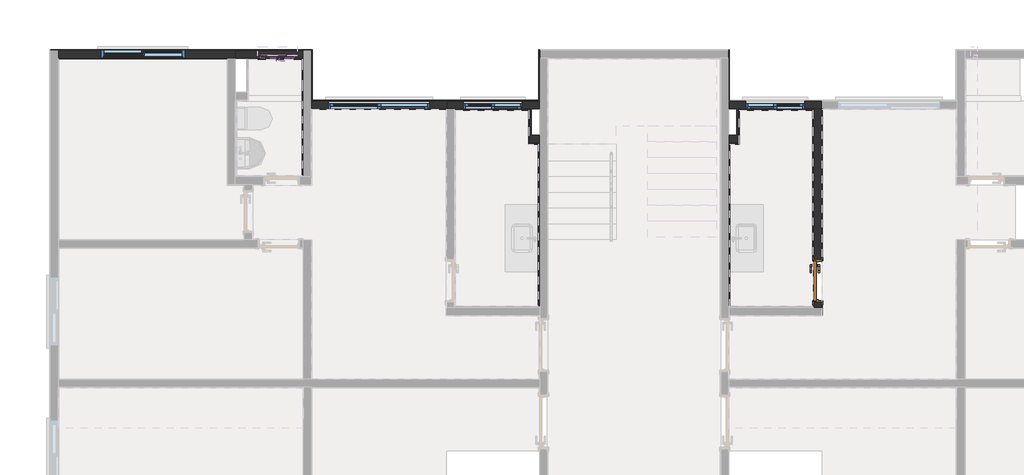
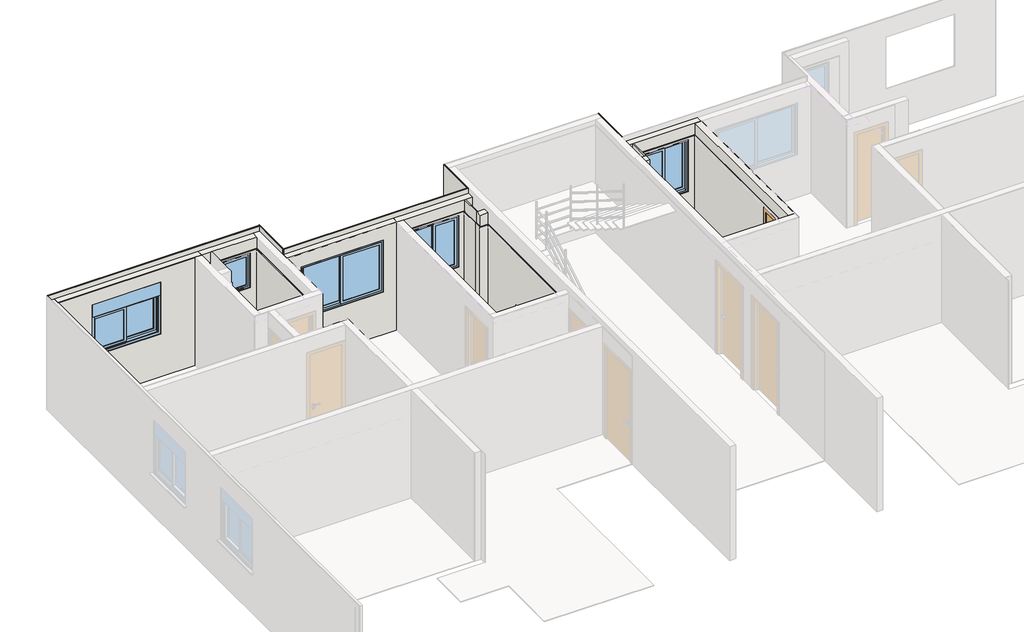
# One storey, part 5 of 9: 31 walls, 5 windows, 1 door.
"""IFC4 building model written with IfcOpenShell, lengths in millimetres."""

from ifc_helpers import new_model, si_unit, frame, origin, place, context, project, spatial, polyline, outline, extrude, faceted_brep, transform, mapped, element, save
from components import porta_de_madeira_interna_70_x_210_porta_de_madeira_interna_f307109d, window_105x120_428ac20c, window_105x120_f2d7c1f1, window_150x120_d34a449e, window_180x120_e659ab7e, window_60x80_6d4336cf

model = new_model("IFC4")

# Units and contexts
model_context = context("Model", 3, world=origin())
ifc_project = project(units=[si_unit("LENGTHUNIT", "METRE", prefix="MILLI")], contexts=[model_context])

# Site, building, storey
site = spatial("IfcSite", under=ifc_project)
building = spatial("IfcBuilding", under=site)
storey = spatial("IfcBuildingStorey", under=building, Name="2º Pavimento", Elevation=2630.0)

# Door
placement = place(None, origin())
porta_de_madeira_interna_70_x_210_porta_de_madeira_interna_shape = porta_de_madeira_interna_70_x_210_porta_de_madeira_interna_f307109d(model_context)
element("IfcDoor", 1, ObjectType="Porta de Madeira Interna 70 x 210 : Porta de Madeira Interna 70 x 210", at=placement, inside=storey, context=model_context, shape_type="MappedRepresentation", body=[
    mapped(porta_de_madeira_interna_70_x_210_porta_de_madeira_interna_shape, transform((13673.8210213, 8221.3603139, 2630.0), x_axis=(0.0, -1.0, 0.0), y_axis=(1.0, 0.0, 0.0), z_axis=(0.0, 0.0, 1.0))),
])

# Walls
element("IfcWall", 2, ObjectType="Alvenaria Estrutural", at=placement, inside=storey, context=model_context, shape_type="Brep", body=[
    faceted_brep([(169.9991825, 12180.0252435, 2630.0), (175.9991825, 12180.0252435, 2630.0), (3179.9977061, 12180.0252435, 2630.0), (3319.9977061, 12180.0252435, 2630.0), (3319.9977061, 12180.0252435, 5140.0), (3179.9977061, 12180.0252435, 5140.0), (175.9991825, 12180.0252435, 5140.0), (169.9991825, 12180.0252435, 5140.0), (2424.9984443, 12180.0252435, 4830.0), (2424.9984443, 12180.0252435, 3630.0), (924.9984443, 12180.0252435, 3630.0), (924.9984443, 12180.0252435, 4830.0), (3319.9977061, 12320.0252435, 2630.0), (169.9991825, 12320.0252435, 2630.0), (169.9991825, 12320.0252435, 5140.0), (3319.9977061, 12320.0252435, 5140.0), (2424.9984443, 12320.0252435, 3630.0), (2424.9984443, 12320.0252435, 4830.0), (924.9984443, 12320.0252435, 4830.0), (924.9984443, 12320.0252435, 3630.0), (874.9984443, 12320.0252435, 3630.0), (874.9984443, 12320.0252435, 3581.3083694), (2474.9984443, 12320.0252435, 3581.3083694), (2474.9984443, 12320.0252435, 3630.0), (2424.9984443, 12222.5252435, 3630.0), (924.9984443, 12222.5252435, 3630.0), (874.9984443, 12222.5252435, 3630.0), (874.9984443, 12222.5252435, 3602.0326341), (2474.9984443, 12222.5252435, 3602.0326341), (2474.9984443, 12222.5252435, 3630.0)], [[[0, 1, 2, 3, 4, 5, 6, 7], [8, 9, 10, 11]], [[12, 13, 14, 15], [16, 17, 18, 19, 20, 21, 22, 23]], [[1, 0, 13, 12, 3, 2]], [[5, 4, 15, 14, 7, 6]], [[9, 8, 17, 16, 24]], [[8, 11, 18, 17]], [[11, 10, 25, 19, 18]], [[10, 9, 24, 25]], [[21, 20, 26, 27]], [[23, 22, 28, 29]], [[25, 24, 29, 28, 27, 26]], [[20, 19, 25, 26]], [[22, 21, 27, 28]], [[4, 3, 12, 15]], [[0, 7, 14, 13]], [[16, 23, 29, 24]]]),
])
element("IfcWall", 3, ObjectType="Alvenaria Estrutural", at=placement, inside=storey, context=model_context, shape_type="Brep", body=[
    faceted_brep([(3319.9977061, 12180.025593, 2630.0), (3516.99398, 12180.025593, 2630.0), (3539.99398, 12180.025593, 2630.0), (4509.9990083, 12180.025593, 2630.0), (4529.9986472, 12180.025593, 2630.0), (4529.9986472, 12180.025593, 4880.0), (4529.9986472, 12180.025593, 5140.0), (3539.99398, 12180.025593, 5140.0), (3516.99398, 12180.025593, 5140.0), (3319.9977061, 12180.025593, 5140.0), (4369.9986472, 12180.025593, 4830.0), (4369.9986472, 12180.025593, 4030.0), (3769.9986472, 12180.025593, 4030.0), (3769.9986472, 12180.025593, 4830.0), (4529.9986472, 12320.025593, 2630.0), (3319.9977061, 12320.025593, 2630.0), (3319.9977061, 12320.025593, 5140.0), (4529.9986472, 12320.025593, 5140.0), (3719.9986472, 12320.025593, 3981.3083694), (4419.9986472, 12320.025593, 3981.3083694), (4419.9986472, 12320.025593, 4030.0), (4369.9986472, 12320.025593, 4030.0), (4369.9986472, 12320.025593, 4830.0), (3769.9986472, 12320.025593, 4830.0), (3769.9986472, 12320.025593, 4030.0), (3719.9986472, 12320.025593, 4030.0), (3719.9986472, 12222.525593, 4030.0), (3719.9986472, 12222.525593, 4002.0326341), (4419.9986472, 12222.525593, 4002.0326341), (4419.9986472, 12222.525593, 4030.0), (3769.9986472, 12222.525593, 4030.0), (4369.9986472, 12222.525593, 4030.0)], [[[0, 1, 2, 3, 4, 5, 6, 7, 8, 9], [10, 11, 12, 13]], [[14, 15, 16, 17], [18, 19, 20, 21, 22, 23, 24, 25]], [[1, 0, 15, 14, 4, 3, 2]], [[7, 6, 17, 16, 9, 8]], [[18, 25, 26, 27]], [[20, 19, 28, 29]], [[27, 26, 30, 31, 29, 28]], [[25, 24, 30, 26]], [[19, 18, 27, 28]], [[11, 10, 22, 21, 31]], [[10, 13, 23, 22]], [[13, 12, 30, 24, 23]], [[12, 11, 31, 30]], [[0, 9, 16, 15]], [[5, 4, 14, 17, 6]], [[21, 20, 29, 31]]]),
])
element("IfcWall", 4, ObjectType="Alvenaria Estrutural", at=placement, inside=storey, context=model_context, shape_type="Brep", body=[
    faceted_brep([(4669.9990083, 11280.0223004, 2630.0), (4675.9990083, 11280.0223004, 2630.0), (7066.9986861, 11280.0223004, 2630.0), (7072.9986861, 11280.0223004, 2630.0), (7079.9990083, 11280.0223004, 2630.0), (7079.9990083, 11280.0223004, 5140.0), (7072.9986861, 11280.0223004, 5140.0), (7066.9986861, 11280.0223004, 5140.0), (4675.9990083, 11280.0223004, 5140.0), (4669.9990083, 11280.0223004, 5140.0), (6774.99925, 11280.0223004, 4830.0), (6774.99925, 11280.0223004, 3630.0), (4974.99925, 11280.0223004, 3630.0), (4974.99925, 11280.0223004, 4830.0), (7079.9990083, 11420.0223004, 2630.0), (4685.9976538, 11420.0223004, 2630.0), (4669.9990083, 11420.0223004, 2630.0), (4669.9990083, 11420.0223004, 5140.0), (7079.9990083, 11420.0223004, 5140.0), (6774.99925, 11420.0223004, 3630.0), (6774.99925, 11420.0223004, 4830.0), (4974.99925, 11420.0223004, 4830.0), (4974.99925, 11420.0223004, 3630.0), (4924.99925, 11420.0223004, 3630.0), (4924.99925, 11420.0223004, 3581.3083694), (6824.99925, 11420.0223004, 3581.3083694), (6824.99925, 11420.0223004, 3630.0), (6774.99925, 11322.5223004, 3630.0), (4974.99925, 11322.5223004, 3630.0), (4924.99925, 11322.5223004, 3630.0), (4924.99925, 11322.5223004, 3602.0326341), (6824.99925, 11322.5223004, 3602.0326341), (6824.99925, 11322.5223004, 3630.0)], [[[0, 1, 2, 3, 4, 5, 6, 7, 8, 9], [10, 11, 12, 13]], [[14, 15, 16, 17, 18], [19, 20, 21, 22, 23, 24, 25, 26]], [[1, 0, 16, 15, 14, 4, 3, 2]], [[5, 4, 14, 18]], [[6, 5, 18, 17, 9, 8, 7]], [[0, 9, 17, 16]], [[11, 10, 20, 19, 27]], [[10, 13, 21, 20]], [[13, 12, 28, 22, 21]], [[12, 11, 27, 28]], [[24, 23, 29, 30]], [[26, 25, 31, 32]], [[28, 27, 32, 31, 30, 29]], [[23, 22, 28, 29]], [[25, 24, 30, 31]], [[19, 26, 32, 27]]]),
])
element("IfcWall", 5, ObjectType="Alvenaria Estrutural", at=placement, inside=storey, context=model_context, shape_type="Brep", body=[
    faceted_brep([(7079.9990083, 11280.0223004, 2630.0), (7212.9986861, 11280.0223004, 2630.0), (7233.0017324, 11280.0223004, 2630.0), (8556.99867, 11280.0223004, 2630.0), (8729.9963008, 11280.0223004, 2630.0), (8729.9963008, 11280.0223004, 5140.0), (7212.9986861, 11280.0223004, 5140.0), (7079.9990083, 11280.0223004, 5140.0), (8424.99921, 11280.0223004, 4830.0), (8424.99921, 11280.0223004, 3630.0), (7374.99921, 11280.0223004, 3630.0), (7374.99921, 11280.0223004, 4830.0), (8729.9963008, 11420.0223004, 2630.0), (7079.9990083, 11420.0223004, 2630.0), (7079.9990083, 11420.0223004, 5140.0), (8729.9963008, 11420.0223004, 5140.0), (8424.99921, 11420.0223004, 3630.0), (8424.99921, 11420.0223004, 4830.0), (7374.99921, 11420.0223004, 4830.0), (7374.99921, 11420.0223004, 3630.0), (7324.99921, 11420.0223004, 3630.0), (7324.99921, 11420.0223004, 3581.3083694), (8474.99921, 11420.0223004, 3581.3083694), (8474.99921, 11420.0223004, 3630.0), (8424.99921, 11322.5223004, 3630.0), (7374.99921, 11322.5223004, 3630.0), (7324.99921, 11322.5223004, 3630.0), (7324.99921, 11322.5223004, 3602.0326341), (8474.99921, 11322.5223004, 3602.0326341), (8474.99921, 11322.5223004, 3630.0)], [[[0, 1, 2, 3, 4, 5, 6, 7], [8, 9, 10, 11]], [[12, 13, 14, 15], [16, 17, 18, 19, 20, 21, 22, 23]], [[1, 0, 13, 12, 4, 3, 2]], [[5, 4, 12, 15]], [[6, 5, 15, 14, 7]], [[0, 7, 14, 13]], [[9, 8, 17, 16, 24]], [[8, 11, 18, 17]], [[11, 10, 25, 19, 18]], [[10, 9, 24, 25]], [[21, 20, 26, 27]], [[23, 22, 28, 29]], [[25, 24, 29, 28, 27, 26]], [[20, 19, 25, 26]], [[22, 21, 27, 28]], [[16, 23, 29, 24]]]),
])
element("IfcWall", 6, ObjectType="Alvenaria Estrutural", at=placement, inside=storey, context=model_context, shape_type="Brep", body=[
    faceted_brep([(8729.9963008, 10815.0073729, 2630.0), (8579.99867, 10815.0073729, 2630.0), (8556.99867, 10815.0073729, 2630.0), (8556.99867, 10815.0073729, 5140.0), (8579.99867, 10815.0073729, 5140.0), (8729.9963008, 10815.0073729, 5140.0), (8729.9963008, 10675.0073729, 2630.0), (8729.9963008, 10675.0073729, 4880.0), (8729.9963008, 10675.0073729, 5140.0), (8556.99867, 10675.0073729, 5140.0), (8556.99867, 10675.0073729, 2630.0), (8709.9963008, 10675.0073729, 2630.0)], [[[0, 1, 2, 3, 4, 5]], [[6, 7, 8, 9, 10, 11]], [[1, 0, 6, 11, 10, 2]], [[4, 3, 9, 8, 5]], [[3, 2, 10, 9]], [[0, 5, 8, 7, 6]]]),
])
element("IfcWall", 7, ObjectType="Alvenaria Estrutural", at=placement, inside=storey, context=model_context, shape_type="Brep", body=[
    faceted_brep([(13739.9956991, 11420.0223004, 2630.0), (12089.9984066, 11420.0223004, 2630.0), (12089.9984066, 11420.0223004, 5140.0), (13739.9956991, 11420.0223004, 5140.0), (12394.9954974, 11420.0223004, 4830.0), (12394.9954974, 11420.0223004, 3630.0), (12344.9954974, 11420.0223004, 3630.0), (12344.9954974, 11420.0223004, 3581.3083694), (13494.9954974, 11420.0223004, 3581.3083694), (13494.9954974, 11420.0223004, 3630.0), (13444.9954974, 11420.0223004, 3630.0), (13444.9954974, 11420.0223004, 4830.0), (12089.9984066, 11280.0223004, 2630.0), (12262.9960374, 11280.0223004, 2630.0), (13586.992975, 11280.0223004, 2630.0), (13606.9960213, 11280.0223004, 2630.0), (13739.9956991, 11280.0223004, 2630.0), (13739.9956991, 11280.0223004, 5140.0), (13606.9960213, 11280.0223004, 5140.0), (12089.9984066, 11280.0223004, 5140.0), (12394.9954974, 11280.0223004, 3630.0), (12394.9954974, 11280.0223004, 4830.0), (13444.9954974, 11280.0223004, 4830.0), (13444.9954974, 11280.0223004, 3630.0), (12394.9954974, 11322.5223004, 3630.0), (13444.9954974, 11322.5223004, 3630.0), (13494.9954974, 11322.5223004, 3602.0326341), (13494.9954974, 11322.5223004, 3630.0), (12344.9954974, 11322.5223004, 3630.0), (12344.9954974, 11322.5223004, 3602.0326341)], [[[0, 1, 2, 3], [4, 5, 6, 7, 8, 9, 10, 11]], [[12, 13, 14, 15, 16, 17, 18, 19], [20, 21, 22, 23]], [[1, 0, 16, 15, 14, 13, 12]], [[2, 1, 12, 19]], [[3, 2, 19, 18, 17]], [[0, 3, 17, 16]], [[5, 4, 21, 20, 24]], [[4, 11, 22, 21]], [[11, 10, 25, 23, 22]], [[20, 23, 25, 24]], [[9, 8, 26, 27]], [[7, 6, 28, 29]], [[24, 25, 27, 26, 29, 28]], [[10, 9, 27, 25]], [[8, 7, 29, 26]], [[6, 5, 24, 28]]]),
])
element("IfcWall", 8, ObjectType="Alvenaria Estrutural", at=placement, inside=storey, context=model_context, shape_type="Brep", body=[
    faceted_brep([(12089.9984066, 10675.0073729, 2630.0), (12109.9984066, 10675.0073729, 2630.0), (12262.9960374, 10675.0073729, 2630.0), (12262.9960374, 10675.0073729, 5140.0), (12089.9984066, 10675.0073729, 5140.0), (12089.9984066, 10675.0073729, 4880.0), (12089.9984066, 10815.0073729, 2630.0), (12089.9984066, 10815.0073729, 5140.0), (12239.9960374, 10815.0073729, 5140.0), (12262.9960374, 10815.0073729, 5140.0), (12262.9960374, 10815.0073729, 2630.0), (12239.9960374, 10815.0073729, 2630.0)], [[[0, 1, 2, 3, 4, 5]], [[6, 7, 8, 9, 10, 11]], [[1, 0, 6, 11, 10, 2]], [[4, 3, 9, 8, 7]], [[3, 2, 10, 9]], [[5, 4, 7, 6, 0]]]),
])
element("IfcWall", 9, ObjectType="Alvenaria Estrutural", at=placement, inside=storey, context=model_context, shape_type="Brep", body=[
    faceted_brep([(13606.9960213, 7746.3603139, 5140.0), (13606.9960213, 11280.0223004, 5140.0), (13606.9960213, 11280.0223004, 4880.0), (13606.9960213, 11280.0223004, 2630.0), (13606.9960213, 11260.0223004, 2630.0), (13606.9960213, 8596.3603139, 2630.0), (13606.9960213, 8596.3603139, 4755.0), (13606.9960213, 7846.3603139, 4755.0), (13606.9960213, 7846.3603139, 2630.0), (13606.9960213, 7766.3603139, 2630.0), (13606.9960213, 7746.3603139, 2630.0), (13606.9960213, 7746.3603139, 4880.0), (13746.9960213, 11280.0223004, 5140.0), (13746.9960213, 11274.0223004, 5140.0), (13746.9960213, 7746.3603139, 5140.0), (13746.9960213, 7746.3603139, 2630.0), (13746.9960213, 7846.3603139, 2630.0), (13746.9960213, 7846.3603139, 4755.0), (13746.9960213, 8596.3603139, 4755.0), (13746.9960213, 8596.3603139, 2630.0), (13746.9960213, 11274.0223004, 2630.0), (13746.9960213, 11280.0223004, 2630.0), (13739.9956991, 11280.0223004, 2630.0), (13739.9956991, 11280.0223004, 5140.0)], [[[0, 1, 2, 3, 4, 5, 6, 7, 8, 9, 10, 11]], [[12, 13, 14, 15, 16, 17, 18, 19, 20, 21]], [[4, 3, 22, 21, 20, 19, 5]], [[1, 0, 14, 13, 12, 23]], [[8, 7, 17, 16]], [[7, 6, 18, 17]], [[6, 5, 19, 18]], [[11, 10, 15, 14, 0]], [[2, 1, 23, 12, 21, 22, 3]], [[9, 8, 16, 15, 10]]]),
])
element("IfcWall", 10, ObjectType="Azulejo", at=placement, inside=storey, context=model_context, shape_type="SweptSolid", body=[
    extrude(outline(polyline([(8709.9963008, 7746.3603139), (8709.9963008, 10675.0073729), (8719.9963008, 10675.0073729), (8719.9963008, 7746.3603139), (8709.9963008, 7746.3603139)])), frame((0.0, 0.0, 2630.0), z_axis=(0.0, 0.0, 1.0), x_axis=(1.0, 0.0, 0.0)), (0.0, 0.0, 1.0), 2250.0),
    extrude(outline(polyline([(8729.9963008, 10675.0073729), (8729.9963008, 7746.3603139), (8719.9963008, 7746.3603139), (8719.9963008, 10675.0073729), (8729.9963008, 10675.0073729)])), frame((0.0, 0.0, 2630.0), z_axis=(0.0, 0.0, 1.0), x_axis=(1.0, 0.0, 0.0)), (0.0, 0.0, 1.0), 2250.0),
])
element("IfcWall", 11, ObjectType="Azulejo", at=placement, inside=storey, context=model_context, shape_type="SolidModel", body=[
    extrude(outline(polyline([(8729.9963008, 10655.0073729), (8536.99631, 10655.0073729), (8536.99631, 10665.0073729), (8729.9963008, 10665.0073729), (8729.9963008, 10655.0073729)])), frame((0.0, 0.0, 2630.0), z_axis=(0.0, 0.0, 1.0), x_axis=(1.0, 0.0, 0.0)), (0.0, 0.0, 1.0), 2250.0),
    faceted_brep([(8546.99631, 10665.0073729, 2630.0), (8729.9963008, 10665.0073729, 2630.0), (8729.9963008, 10665.0073729, 4880.0), (8546.99631, 10665.0073729, 4880.0), (8546.99631, 10675.0073729, 2630.0), (8546.99631, 10675.0073729, 4880.0), (8556.99631, 10675.0073729, 4880.0), (8729.9963008, 10675.0073729, 4880.0), (8729.9963008, 10675.0073729, 2630.0), (8556.99631, 10675.0073729, 2630.0)], [[[0, 1, 2, 3]], [[4, 5, 6, 7, 8, 9]], [[9, 8, 1, 0, 4]], [[6, 5, 3, 2, 7]], [[8, 7, 2, 1]], [[5, 4, 0, 3]]]),
])
element("IfcWall", 12, ObjectType="Azulejo", at=placement, inside=storey, context=model_context, shape_type="SolidModel", body=[
    faceted_brep([(8536.99631, 11260.0223004, 2630.0), (7212.9986861, 11260.0223004, 2630.0), (7212.9986861, 11270.0223004, 2630.0), (8556.99867, 11270.0223004, 2630.0), (8556.99867, 11260.0223004, 2630.0), (8546.99631, 11260.0223004, 2630.0), (8546.99631, 11260.0223004, 4880.0), (8556.99867, 11260.0223004, 4880.0), (8556.99867, 11270.0223004, 4880.0), (7212.9986861, 11270.0223004, 4880.0), (7212.9986861, 11260.0223004, 4880.0), (8536.99631, 11260.0223004, 4880.0), (8424.99921, 11260.0223004, 3630.0), (8424.99921, 11260.0223004, 4830.0), (8424.99921, 11270.0223004, 4830.0), (8424.99921, 11270.0223004, 3630.0), (7374.99921, 11260.0223004, 4830.0), (7374.99921, 11270.0223004, 4830.0), (7374.99921, 11260.0223004, 3630.0), (7374.99921, 11270.0223004, 3630.0)], [[[0, 1, 2, 3, 4, 5]], [[6, 7, 8, 9, 10, 11]], [[12, 13, 14, 15]], [[13, 16, 17, 14]], [[16, 18, 19, 17]], [[18, 12, 15, 19]], [[1, 10, 9, 2]], [[7, 4, 3, 8]], [[3, 2, 9, 8], [15, 14, 17, 19]], [[1, 0, 5, 4, 7, 6, 11, 10], [12, 18, 16, 13]]]),
    extrude(outline(polyline([(2630.0, 7212.9986861), (2630.0, 8556.99867), (4880.0, 8556.99867), (4880.0, 7212.9986861), (2630.0, 7212.9986861)]), holes=[polyline([(4830.0, 8424.99921), (3630.0, 8424.99921), (3630.0, 7374.99921), (4830.0, 7374.99921), (4830.0, 8424.99921)])]), frame((0.0, 11270.0223004, 0.0), z_axis=(0.0, 1.0, 0.0), x_axis=(0.0, 0.0, 1.0)), (0.0, 0.0, 1.0), 10.0),
])
element("IfcWall", 13, ObjectType="Azulejo", at=placement, inside=storey, context=model_context, shape_type="SweptSolid", body=[
    extrude(outline(polyline([(8536.99631, 10665.0073729), (8536.99631, 10815.0073729), (8546.99631, 10815.0073729), (8546.99631, 10665.0073729), (8536.99631, 10665.0073729)])), frame((0.0, 0.0, 2630.0), z_axis=(0.0, 0.0, 1.0), x_axis=(1.0, 0.0, 0.0)), (0.0, 0.0, 1.0), 2250.0),
    extrude(outline(polyline([(8556.99631, 10815.0073729), (8556.99631, 10675.0073729), (8546.99631, 10675.0073729), (8546.99631, 10815.0073729), (8556.99631, 10815.0073729)])), frame((0.0, 0.0, 2630.0), z_axis=(0.0, 0.0, 1.0), x_axis=(1.0, 0.0, 0.0)), (0.0, 0.0, 1.0), 2250.0),
])
element("IfcWall", 14, ObjectType="Azulejo", at=placement, inside=storey, context=model_context, shape_type="SolidModel", body=[
    faceted_brep([(4519.9990083, 10090.0238664, 2630.0), (4509.9990083, 10090.0238664, 2630.0), (4509.9990083, 12160.025593, 2630.0), (4509.9990083, 12170.025593, 2630.0), (4519.9990083, 12170.025593, 2630.0), (4509.9990083, 12160.025593, 4880.0), (4509.9990083, 10090.0238664, 4880.0), (4519.9990083, 10090.0238664, 4880.0), (4519.9990083, 12170.025593, 4880.0), (4509.9990083, 12170.025593, 4880.0)], [[[0, 1, 2, 3, 4]], [[5, 6, 7, 8, 9]], [[1, 0, 7, 6]], [[7, 0, 4, 8]], [[2, 1, 6, 5, 9, 3]], [[4, 3, 9, 8]]]),
    extrude(outline(polyline([(4529.9990083, 12180.025593), (4529.9990083, 10080.0238664), (4519.9990083, 10080.0238664), (4519.9990083, 12180.025593), (4529.9990083, 12180.025593)])), frame((0.0, 0.0, 2630.0), z_axis=(0.0, 0.0, 1.0), x_axis=(1.0, 0.0, 0.0)), (0.0, 0.0, 1.0), 2250.0),
])
element("IfcWall", 15, ObjectType="Azulejo", at=placement, inside=storey, context=model_context, shape_type="SolidModel", body=[
    faceted_brep([(3549.99398, 12160.025593, 2630.0), (3539.99398, 12160.025593, 2630.0), (3539.99398, 12170.025593, 2630.0), (4509.9990083, 12170.025593, 2630.0), (4509.9990083, 12160.025593, 2630.0), (3549.99398, 12160.025593, 4880.0), (4509.9990083, 12160.025593, 4880.0), (4509.9990083, 12170.025593, 4880.0), (3539.99398, 12170.025593, 4880.0), (3539.99398, 12160.025593, 4880.0), (4369.9986472, 12160.025593, 4030.0), (4369.9986472, 12160.025593, 4830.0), (4369.9986472, 12170.025593, 4830.0), (4369.9986472, 12170.025593, 4030.0), (3769.9986472, 12160.025593, 4830.0), (3769.9986472, 12170.025593, 4830.0), (3769.9986472, 12160.025593, 4030.0), (3769.9986472, 12170.025593, 4030.0)], [[[0, 1, 2, 3, 4]], [[5, 6, 7, 8, 9]], [[10, 11, 12, 13]], [[11, 14, 15, 12]], [[14, 16, 17, 15]], [[16, 10, 13, 17]], [[6, 4, 3, 7]], [[1, 9, 8, 2]], [[3, 2, 8, 7], [13, 12, 15, 17]], [[4, 6, 5, 9, 1, 0], [10, 16, 14, 11]]]),
    extrude(outline(polyline([(2630.0, 3539.99398), (2630.0, 4519.9990083), (4880.0, 4519.9990083), (4880.0, 3539.99398), (2630.0, 3539.99398)]), holes=[polyline([(4830.0, 4369.9986472), (4030.0, 4369.9986472), (4030.0, 3769.9986472), (4830.0, 3769.9986472), (4830.0, 4369.9986472)])]), frame((0.0, 12170.025593, 0.0), z_axis=(0.0, 1.0, 0.0), x_axis=(0.0, 0.0, 1.0)), (0.0, 0.0, 1.0), 10.0),
])
element("IfcWall", 16, ObjectType="Azulejo", at=placement, inside=storey, context=model_context, shape_type="SweptSolid", body=[
    extrude(outline(polyline([(7746.3603139, 4880.0), (11280.0223004, 4880.0), (11280.0223004, 2630.0), (8596.3603139, 2630.0), (8596.3603139, 4755.0), (7846.3603139, 4755.0), (7846.3603139, 2630.0), (7746.3603139, 2630.0), (7746.3603139, 4880.0)])), frame((13586.992975, 0.0, 0.0), z_axis=(1.0, 0.0, 0.0), x_axis=(0.0, 1.0, 0.0)), (0.0, 0.0, 1.0), 10.0),
    extrude(outline(polyline([(11280.0223004, 2630.0), (8596.3603139, 2630.0), (8596.3603139, 4755.0), (7846.3603139, 4755.0), (7846.3603139, 2630.0), (7746.3603139, 2630.0), (7746.3603139, 4880.0), (11280.0223004, 4880.0), (11280.0223004, 2630.0)])), frame((13596.992975, 0.0, 0.0), z_axis=(1.0, 0.0, 0.0), x_axis=(0.0, 1.0, 0.0)), (0.0, 0.0, 1.0), 10.0),
])
element("IfcWall", 17, ObjectType="Azulejo", at=placement, inside=storey, context=model_context, shape_type="SweptSolid", body=[
    extrude(outline(polyline([(12109.9984066, 10675.0073729), (12109.9984066, 7746.3603139), (12099.9984066, 7746.3603139), (12099.9984066, 10675.0073729), (12109.9984066, 10675.0073729)])), frame((0.0, 0.0, 2630.0), z_axis=(0.0, 0.0, 1.0), x_axis=(1.0, 0.0, 0.0)), (0.0, 0.0, 1.0), 2250.0),
    extrude(outline(polyline([(12089.9984066, 7746.3603139), (12089.9984066, 10675.0073729), (12099.9984066, 10675.0073729), (12099.9984066, 7746.3603139), (12089.9984066, 7746.3603139)])), frame((0.0, 0.0, 2630.0), z_axis=(0.0, 0.0, 1.0), x_axis=(1.0, 0.0, 0.0)), (0.0, 0.0, 1.0), 2250.0),
])
element("IfcWall", 18, ObjectType="Azulejo", at=placement, inside=storey, context=model_context, shape_type="SolidModel", body=[
    extrude(outline(polyline([(12282.9983974, 10655.0073729), (12089.9984066, 10655.0073729), (12089.9984066, 10665.0073729), (12282.9983974, 10665.0073729), (12282.9983974, 10655.0073729)])), frame((0.0, 0.0, 2630.0), z_axis=(0.0, 0.0, 1.0), x_axis=(1.0, 0.0, 0.0)), (0.0, 0.0, 1.0), 2250.0),
    faceted_brep([(12089.9984066, 10665.0073729, 2630.0), (12272.9983974, 10665.0073729, 2630.0), (12272.9983974, 10665.0073729, 4880.0), (12089.9984066, 10665.0073729, 4880.0), (12272.9983974, 10675.0073729, 2630.0), (12262.9983974, 10675.0073729, 2630.0), (12089.9984066, 10675.0073729, 2630.0), (12089.9984066, 10675.0073729, 4880.0), (12262.9983974, 10675.0073729, 4880.0), (12272.9983974, 10675.0073729, 4880.0)], [[[0, 1, 2, 3]], [[4, 5, 6, 7, 8, 9]], [[5, 4, 1, 0, 6]], [[8, 7, 3, 2, 9]], [[7, 6, 0, 3]], [[4, 9, 2, 1]]]),
])
element("IfcWall", 19, ObjectType="Azulejo", at=placement, inside=storey, context=model_context, shape_type="SolidModel", body=[
    faceted_brep([(12272.9983974, 11260.0223004, 2630.0), (12262.9960374, 11260.0223004, 2630.0), (12262.9960374, 11270.0223004, 2630.0), (13606.9960213, 11270.0223004, 2630.0), (13606.9960213, 11260.0223004, 2630.0), (12282.9983974, 11260.0223004, 2630.0), (12282.9983974, 11260.0223004, 4880.0), (13606.9960213, 11260.0223004, 4880.0), (13606.9960213, 11270.0223004, 4880.0), (12262.9960374, 11270.0223004, 4880.0), (12262.9960374, 11260.0223004, 4880.0), (12272.9983974, 11260.0223004, 4880.0), (12394.9954974, 11260.0223004, 4830.0), (12394.9954974, 11260.0223004, 3630.0), (12394.9954974, 11270.0223004, 3630.0), (12394.9954974, 11270.0223004, 4830.0), (13444.9954974, 11260.0223004, 4830.0), (13444.9954974, 11270.0223004, 4830.0), (13444.9954974, 11260.0223004, 3630.0), (13444.9954974, 11270.0223004, 3630.0)], [[[0, 1, 2, 3, 4, 5]], [[6, 7, 8, 9, 10, 11]], [[12, 13, 14, 15]], [[16, 12, 15, 17]], [[18, 16, 17, 19]], [[13, 18, 19, 14]], [[7, 4, 3, 8]], [[1, 10, 9, 2]], [[3, 2, 9, 8], [15, 14, 19, 17]], [[4, 7, 6, 11, 10, 1, 0, 5], [13, 12, 16, 18]]]),
    extrude(outline(polyline([(2630.0, 12262.9960374), (2630.0, 13606.9960213), (4880.0, 13606.9960213), (4880.0, 12262.9960374), (2630.0, 12262.9960374)]), holes=[polyline([(3630.0, 12394.9954974), (4830.0, 12394.9954974), (4830.0, 13444.9954974), (3630.0, 13444.9954974), (3630.0, 12394.9954974)])]), frame((0.0, 11270.0223004, 0.0), z_axis=(0.0, 1.0, 0.0), x_axis=(0.0, 0.0, 1.0)), (0.0, 0.0, 1.0), 10.0),
])
element("IfcWall", 20, ObjectType="Azulejo", at=placement, inside=storey, context=model_context, shape_type="SweptSolid", body=[
    extrude(outline(polyline([(12282.9983974, 10815.0073729), (12282.9983974, 10665.0073729), (12272.9983974, 10665.0073729), (12272.9983974, 10815.0073729), (12282.9983974, 10815.0073729)])), frame((0.0, 0.0, 2630.0), z_axis=(0.0, 0.0, 1.0), x_axis=(1.0, 0.0, 0.0)), (0.0, 0.0, 1.0), 2250.0),
    extrude(outline(polyline([(12262.9983974, 10675.0073729), (12262.9983974, 10815.0073729), (12272.9983974, 10815.0073729), (12272.9983974, 10675.0073729), (12262.9983974, 10675.0073729)])), frame((0.0, 0.0, 2630.0), z_axis=(0.0, 0.0, 1.0), x_axis=(1.0, 0.0, 0.0)), (0.0, 0.0, 1.0), 2250.0),
])
element("IfcWall", 21, ObjectType="Azulejo - Shaft", at=placement, inside=storey, context=model_context, shape_type="SweptSolid", body=[
    extrude(outline(polyline([(8536.99631, 10815.0073729), (8536.99631, 11260.0223004), (8546.99631, 11260.0223004), (8546.99631, 10815.0073729), (8536.99631, 10815.0073729)])), frame((0.0, 0.0, 2630.0), z_axis=(0.0, 0.0, 1.0), x_axis=(1.0, 0.0, 0.0)), (0.0, 0.0, 1.0), 2250.0),
])
element("IfcWall", 22, ObjectType="Azulejo - Shaft", at=placement, inside=storey, context=model_context, shape_type="SweptSolid", body=[
    extrude(outline(polyline([(12272.9983974, 10815.0073729), (12272.9983974, 11260.0223004), (12282.9983974, 11260.0223004), (12282.9983974, 10815.0073729), (12272.9983974, 10815.0073729)])), frame((0.0, 0.0, 2630.0), z_axis=(0.0, 0.0, 1.0), x_axis=(1.0, 0.0, 0.0)), (0.0, 0.0, 1.0), 2250.0),
])
element("IfcWall", 23, ObjectType="Gesso Liso + Pintura", at=placement, inside=storey, context=model_context, shape_type="SolidModel", body=[
    faceted_brep([(3173.9976538, 12174.0253822, 2630.0), (175.9991825, 12174.0253822, 2630.0), (175.9991825, 12175.0253822, 2630.0), (3174.9976538, 12175.0253822, 2630.0), (3174.9976538, 12174.0253822, 2630.0), (175.9991825, 12175.0253822, 5140.0), (175.9991825, 12174.0253822, 5140.0), (3173.9976538, 12174.0253822, 5140.0), (3174.9976538, 12174.0253822, 5140.0), (3174.9976538, 12175.0253822, 5140.0), (2424.9984443, 12174.0253822, 3630.0), (2424.9984443, 12174.0253822, 4830.0), (2424.9984443, 12175.0253822, 4830.0), (2424.9984443, 12175.0253822, 3630.0), (924.9984443, 12174.0253822, 4830.0), (924.9984443, 12175.0253822, 4830.0), (924.9984443, 12174.0253822, 3630.0), (924.9984443, 12175.0253822, 3630.0)], [[[0, 1, 2, 3, 4]], [[5, 6, 7, 8, 9]], [[10, 11, 12, 13]], [[12, 11, 14, 15]], [[15, 14, 16, 17]], [[10, 13, 17, 16]], [[2, 1, 6, 5]], [[2, 5, 9, 3], [13, 12, 15, 17]], [[1, 0, 4, 8, 7, 6], [11, 10, 16, 14]], [[4, 3, 9, 8]]]),
    extrude(outline(polyline([(2630.0, 174.9991825), (2630.0, 3179.9977061), (5140.0, 3179.9977061), (5140.0, 174.9991825), (2630.0, 174.9991825)]), holes=[polyline([(4830.0, 2424.9984443), (3630.0, 2424.9984443), (3630.0, 924.9984443), (4830.0, 924.9984443), (4830.0, 2424.9984443)])]), frame((0.0, 12175.0253822, 0.0), z_axis=(0.0, 1.0, 0.0), x_axis=(0.0, 0.0, 1.0)), (0.0, 0.0, 1.0), 5.0),
])
element("IfcWall", 24, ObjectType="Gesso Liso + Pintura", at=placement, inside=storey, context=model_context, shape_type="SweptSolid", body=[
    extrude(outline(polyline([(2630.0, 7072.9986861), (5140.0, 7072.9986861), (5140.0, 4669.9986472), (2630.0, 4669.9986472), (2630.0, 7072.9986861)]), holes=[polyline([(3630.0, 6774.99925), (3630.0, 4974.99925), (4830.0, 4974.99925), (4830.0, 6774.99925), (3630.0, 6774.99925)])]), frame((0.0, 11274.0223004, 0.0), z_axis=(0.0, 1.0, 0.0), x_axis=(0.0, 0.0, 1.0)), (0.0, 0.0, 1.0), 1.0),
    extrude(outline(polyline([(2630.0, 4669.9986472), (2630.0, 7072.9986861), (5140.0, 7072.9986861), (5140.0, 4669.9986472), (2630.0, 4669.9986472)]), holes=[polyline([(4830.0, 6774.99925), (3630.0, 6774.99925), (3630.0, 4974.99925), (4830.0, 4974.99925), (4830.0, 6774.99925)])]), frame((0.0, 11275.0223004, 0.0), z_axis=(0.0, 1.0, 0.0), x_axis=(0.0, 0.0, 1.0)), (0.0, 0.0, 1.0), 5.0),
])
element("IfcWall", 25, ObjectType="Gesso Liso + Pintura", at=placement, inside=storey, context=model_context, shape_type="SolidModel", body=[
    extrude(outline(polyline([(7846.3603139, 2630.0), (7601.3603139, 2630.0), (7601.3603139, 5140.0), (11280.0223004, 5140.0), (11280.0223004, 2630.0), (8596.3603139, 2630.0), (8596.3603139, 4755.0), (7846.3603139, 4755.0), (7846.3603139, 2630.0)])), frame((13751.9960213, 0.0, 0.0), z_axis=(1.0, 0.0, 0.0), x_axis=(0.0, 1.0, 0.0)), (0.0, 0.0, 1.0), 1.0),
    faceted_brep([(13751.9960213, 7606.3603139, 2630.0), (13751.9960213, 7846.3603139, 2630.0), (13751.9960213, 7846.3603139, 4755.0), (13751.9960213, 8596.3603139, 4755.0), (13751.9960213, 8596.3603139, 2630.0), (13751.9960213, 11280.0223004, 2630.0), (13751.9960213, 11280.0223004, 5140.0), (13751.9960213, 7606.3603139, 5140.0), (13746.9960213, 7606.3603139, 5140.0), (13746.9960213, 7746.3603139, 5140.0), (13746.9960213, 11280.0223004, 5140.0), (13746.9960213, 11280.0223004, 2630.0), (13746.9960213, 8596.3603139, 2630.0), (13746.9960213, 8596.3603139, 4755.0), (13746.9960213, 7846.3603139, 4755.0), (13746.9960213, 7846.3603139, 2630.0), (13746.9960213, 7746.3603139, 2630.0), (13746.9960213, 7606.3603139, 2630.0)], [[[0, 1, 2, 3, 4, 5, 6, 7]], [[8, 9, 10, 11, 12, 13, 14, 15, 16, 17]], [[16, 15, 1, 0, 17]], [[9, 8, 7, 6, 10]], [[15, 14, 2, 1]], [[14, 13, 3, 2]], [[13, 12, 4, 3]], [[8, 17, 0, 7]], [[11, 10, 6, 5]], [[12, 11, 5, 4]]]),
])
element("IfcWall", 26, ObjectType="Reboco + Pintura Externa", at=placement, inside=storey, context=model_context, shape_type="SolidModel", body=[
    extrude(outline(polyline([(2630.0, 14.9976538), (2630.0, 4685.9976538), (5260.0, 4685.9976538), (5260.0, 14.9976538), (2630.0, 14.9976538)]), holes=[polyline([(4830.0, 2424.9984443), (3630.0, 2424.9984443), (3630.0, 924.9984443), (4830.0, 924.9984443), (4830.0, 2424.9984443)]), polyline([(4830.0, 4369.9986472), (4030.0, 4369.9986472), (4030.0, 3769.9986472), (4830.0, 3769.9986472), (4830.0, 4369.9986472)])]), frame((0.0, 12334.9952456, 0.0), z_axis=(0.0, 1.0, 0.0), x_axis=(0.0, 0.0, 1.0)), (0.0, 0.0, 1.0), 1.0),
    faceted_brep([(4674.9976538, 12324.9952456, 2630.0), (29.9976538, 12324.9952456, 2630.0), (29.9976538, 12324.9952456, 5260.0), (4674.9976538, 12324.9952456, 5260.0), (2424.9984443, 12324.9952456, 3630.0), (2424.9984443, 12324.9952456, 4830.0), (924.9984443, 12324.9952456, 4830.0), (924.9984443, 12324.9952456, 3630.0), (4369.9986472, 12324.9952456, 4030.0), (4369.9986472, 12324.9952456, 4830.0), (3769.9986472, 12324.9952456, 4830.0), (3769.9986472, 12324.9952456, 4030.0), (3319.9977061, 12319.9952456, 2630.0), (29.9976538, 12319.9952456, 2630.0), (4674.9976538, 12319.9952456, 2630.0), (4669.9976538, 12319.9952456, 2630.0), (4529.9986472, 12319.9952456, 2630.0), (4669.9976538, 12319.9952456, 5260.0), (4674.9976538, 12319.9952456, 5260.0), (29.9976538, 12319.9952456, 5260.0), (4369.9986472, 12319.9952456, 4030.0), (4369.9986472, 12319.9952456, 4830.0), (3769.9986472, 12319.9952456, 4830.0), (3769.9986472, 12319.9952456, 4030.0), (2424.9984443, 12319.9952456, 3630.0), (2424.9984443, 12319.9952456, 4830.0), (924.9984443, 12319.9952456, 4830.0), (924.9984443, 12319.9952456, 3630.0)], [[[0, 1, 2, 3], [4, 5, 6, 7], [8, 9, 10, 11]], [[12, 13, 1, 0, 14, 15, 16]], [[17, 18, 3, 2, 19]], [[20, 21, 9, 8]], [[21, 22, 10, 9]], [[22, 23, 11, 10]], [[23, 20, 8, 11]], [[24, 25, 5, 4]], [[25, 26, 6, 5]], [[26, 27, 7, 6]], [[27, 24, 4, 7]], [[13, 19, 2, 1]], [[13, 12, 16, 15, 14, 18, 17, 19], [20, 23, 22, 21], [24, 27, 26, 25]], [[18, 14, 0, 3]]]),
    extrude(outline(polyline([(2630.0, 24.9976538), (2630.0, 4684.9976538), (5260.0, 4684.9976538), (5260.0, 24.9976538), (2630.0, 24.9976538)]), holes=[polyline([(4830.0, 2424.9984443), (3630.0, 2424.9984443), (3630.0, 924.9984443), (4830.0, 924.9984443), (4830.0, 2424.9984443)]), polyline([(4830.0, 4369.9986472), (4030.0, 4369.9986472), (4030.0, 3769.9986472), (4830.0, 3769.9986472), (4830.0, 4369.9986472)])]), frame((0.0, 12324.9952456, 0.0), z_axis=(0.0, 1.0, 0.0), x_axis=(0.0, 0.0, 1.0)), (0.0, 0.0, 1.0), 10.0),
])
element("IfcWall", 27, ObjectType="Reboco + Pintura Externa", at=placement, inside=storey, context=model_context, shape_type="SolidModel", body=[
    extrude(outline(polyline([(4685.9976538, 12334.9952456), (4685.9976538, 11420.0223004), (4684.9976538, 11420.0223004), (4684.9976538, 12334.9952456), (4685.9976538, 12334.9952456)])), frame((0.0, 0.0, 2630.0), z_axis=(0.0, 0.0, 1.0), x_axis=(1.0, 0.0, 0.0)), (0.0, 0.0, 1.0), 2630.0),
    faceted_brep([(4674.9976538, 11420.0223004, 2630.0), (4674.9976538, 12319.9952456, 2630.0), (4674.9976538, 12319.9952456, 5260.0), (4674.9976538, 11420.0223004, 5260.0), (4669.9976538, 11420.0223004, 2630.0), (4669.9976538, 12319.9952456, 2630.0), (4669.9976538, 12319.9952456, 5260.0), (4669.9976538, 11420.0223004, 5260.0), (4669.9976538, 11420.0223004, 5140.0)], [[[0, 1, 2, 3]], [[4, 5, 1, 0]], [[6, 7, 3, 2]], [[5, 6, 2, 1]], [[8, 4, 0, 3, 7]], [[5, 4, 8, 7, 6]]]),
    extrude(outline(polyline([(4674.9976538, 12324.9952456), (4684.9976538, 12324.9952456), (4684.9976538, 11420.0223004), (4674.9976538, 11420.0223004), (4674.9976538, 12324.9952456)])), frame((0.0, 0.0, 2630.0), z_axis=(0.0, 0.0, 1.0), x_axis=(1.0, 0.0, 0.0)), (0.0, 0.0, 1.0), 2630.0),
])
element("IfcWall", 28, ObjectType="Reboco + Pintura Externa", at=placement, inside=storey, context=model_context, shape_type="Brep", body=[
    faceted_brep([(6774.99925, 11435.0223004, 3630.0), (6774.99925, 11435.0223004, 4830.0), (6774.99925, 11436.0223004, 4830.0), (6774.99925, 11436.0223004, 3630.0), (4974.99925, 11435.0223004, 3630.0), (4974.99925, 11436.0223004, 3630.0), (4974.99925, 11435.0223004, 4830.0), (4974.99925, 11436.0223004, 4830.0), (8424.99921, 11435.0223004, 3630.0), (8424.99921, 11435.0223004, 4830.0), (8424.99921, 11436.0223004, 4830.0), (8424.99921, 11436.0223004, 3630.0), (7374.99921, 11435.0223004, 3630.0), (7374.99921, 11436.0223004, 3630.0), (7374.99921, 11435.0223004, 4830.0), (7374.99921, 11436.0223004, 4830.0), (4669.9986472, 11435.0223004, 2630.0), (4669.9986472, 11436.0223004, 2630.0), (8713.9963008, 11436.0223004, 2630.0), (8714.9963008, 11436.0223004, 2630.0), (8714.9963008, 11435.0223004, 2630.0), (4669.9986472, 11435.0223004, 5140.0), (4669.9986472, 11435.0223004, 5260.0), (4669.9986472, 11436.0223004, 5260.0), (4669.9986472, 11436.0223004, 5140.0), (8714.9963008, 11435.0223004, 5140.0), (8714.9963008, 11435.0223004, 5260.0), (8713.9963008, 11436.0223004, 5260.0), (8714.9963008, 11436.0223004, 5260.0), (8714.9963008, 11436.0223004, 5140.0)], [[[0, 1, 2, 3]], [[4, 0, 3, 5]], [[6, 4, 5, 7]], [[1, 6, 7, 2]], [[8, 9, 10, 11]], [[12, 8, 11, 13]], [[14, 12, 13, 15]], [[9, 14, 15, 10]], [[16, 17, 18, 19, 20]], [[16, 21, 22, 23, 24, 17]], [[21, 16, 20, 25, 26, 22], [1, 0, 4, 6], [9, 8, 12, 14]], [[18, 17, 24, 23, 27, 28, 29, 19], [3, 2, 7, 5], [11, 10, 15, 13]], [[25, 20, 19, 29, 28, 26]], [[22, 26, 28, 27, 23]]]),
    faceted_brep([(8729.9963008, 11425.0223004, 2630.0), (4669.9986472, 11425.0223004, 2630.0), (4669.9986472, 11425.0223004, 5140.0), (4669.9986472, 11425.0223004, 5260.0), (8729.9963008, 11425.0223004, 5260.0), (8729.9963008, 11425.0223004, 5140.0), (8424.99921, 11425.0223004, 3630.0), (8424.99921, 11425.0223004, 4830.0), (7374.99921, 11425.0223004, 4830.0), (7374.99921, 11425.0223004, 3630.0), (6774.99925, 11425.0223004, 3630.0), (6774.99925, 11425.0223004, 4830.0), (4974.99925, 11425.0223004, 4830.0), (4974.99925, 11425.0223004, 3630.0), (6774.99925, 11420.0223004, 3630.0), (6774.99925, 11420.0223004, 4830.0), (4974.99925, 11420.0223004, 3630.0), (4974.99925, 11420.0223004, 4830.0), (8424.99921, 11420.0223004, 3630.0), (8424.99921, 11420.0223004, 4830.0), (7374.99921, 11420.0223004, 3630.0), (7374.99921, 11420.0223004, 4830.0), (8729.9963008, 11420.0223004, 2630.0), (7079.9990083, 11420.0223004, 2630.0), (4669.9986472, 11420.0223004, 2630.0), (8729.9963008, 11420.0223004, 5260.0), (8729.9963008, 11420.0223004, 5140.0), (4669.9986472, 11420.0223004, 5140.0), (4669.9986472, 11420.0223004, 5260.0)], [[[0, 1, 2, 3, 4, 5], [6, 7, 8, 9], [10, 11, 12, 13]], [[11, 10, 14, 15]], [[10, 13, 16, 14]], [[13, 12, 17, 16]], [[12, 11, 15, 17]], [[7, 6, 18, 19]], [[6, 9, 20, 18]], [[9, 8, 21, 20]], [[8, 7, 19, 21]], [[1, 0, 22, 23, 24]], [[0, 5, 4, 25, 26, 22]], [[2, 1, 24, 27, 28, 3]], [[24, 23, 22, 26, 25, 28, 27], [15, 14, 16, 17], [19, 18, 20, 21]], [[4, 3, 28, 25]]]),
    faceted_brep([(4669.9986472, 11425.0223004, 2630.0), (8729.9963008, 11425.0223004, 2630.0), (8729.9963008, 11425.0223004, 5140.0), (8729.9963008, 11425.0223004, 5260.0), (4669.9986472, 11425.0223004, 5260.0), (4669.9986472, 11425.0223004, 5140.0), (8424.99921, 11425.0223004, 4830.0), (8424.99921, 11425.0223004, 3630.0), (7374.99921, 11425.0223004, 3630.0), (7374.99921, 11425.0223004, 4830.0), (6774.99925, 11425.0223004, 4830.0), (6774.99925, 11425.0223004, 3630.0), (4974.99925, 11425.0223004, 3630.0), (4974.99925, 11425.0223004, 4830.0), (6774.99925, 11435.0223004, 4830.0), (6774.99925, 11435.0223004, 3630.0), (4974.99925, 11435.0223004, 3630.0), (4974.99925, 11435.0223004, 4830.0), (8424.99921, 11435.0223004, 4830.0), (8424.99921, 11435.0223004, 3630.0), (7374.99921, 11435.0223004, 3630.0), (7374.99921, 11435.0223004, 4830.0), (4669.9986472, 11435.0223004, 2630.0), (8729.9963008, 11435.0223004, 2630.0), (8729.9963008, 11435.0223004, 5140.0), (8729.9963008, 11435.0223004, 5260.0), (4669.9986472, 11435.0223004, 5260.0), (4669.9986472, 11435.0223004, 5140.0)], [[[0, 1, 2, 3, 4, 5], [6, 7, 8, 9], [10, 11, 12, 13]], [[11, 10, 14, 15]], [[12, 11, 15, 16]], [[13, 12, 16, 17]], [[10, 13, 17, 14]], [[7, 6, 18, 19]], [[8, 7, 19, 20]], [[9, 8, 20, 21]], [[6, 9, 21, 18]], [[1, 0, 22, 23]], [[2, 1, 23, 24, 25, 3]], [[0, 5, 4, 26, 27, 22]], [[23, 22, 27, 26, 25, 24], [15, 14, 17, 16], [19, 18, 21, 20]], [[4, 3, 25, 26]]]),
])
element("IfcWall", 29, ObjectType="Reboco + Pintura Externa", at=placement, inside=storey, context=model_context, shape_type="SolidModel", body=[
    extrude(outline(polyline([(8713.9963008, 11436.0223004), (8713.9963008, 12335.9995833), (8714.9963008, 12335.9995833), (8714.9963008, 11436.0223004), (8713.9963008, 11436.0223004)])), frame((0.0, 0.0, 2630.0), z_axis=(0.0, 0.0, 1.0), x_axis=(1.0, 0.0, 0.0)), (0.0, 0.0, 1.0), 2630.0),
    faceted_brep([(8724.9963008, 12324.9995833, 2630.0), (8724.9963008, 11435.0223004, 2630.0), (8724.9963008, 11435.0223004, 5260.0), (8724.9963008, 12324.9995833, 5260.0), (8729.9963008, 12319.9995833, 2630.0), (8729.9963008, 11435.0223004, 2630.0), (8729.9963008, 12324.9995833, 2630.0), (8729.9963008, 12319.9995833, 5260.0), (8729.9963008, 12324.9995833, 5260.0), (8729.9963008, 11435.0223004, 5260.0)], [[[0, 1, 2, 3]], [[4, 5, 1, 0, 6]], [[7, 8, 3, 2, 9]], [[5, 4, 6, 8, 7, 9]], [[5, 9, 2, 1]], [[8, 6, 0, 3]]]),
    extrude(outline(polyline([(8724.9963008, 11435.0223004), (8714.9963008, 11435.0223004), (8714.9963008, 12334.9995833), (8724.9963008, 12334.9995833), (8724.9963008, 11435.0223004)])), frame((0.0, 0.0, 2630.0), z_axis=(0.0, 0.0, 1.0), x_axis=(1.0, 0.0, 0.0)), (0.0, 0.0, 1.0), 2630.0),
])
element("IfcWall", 30, ObjectType="Reboco + Pintura Externa", at=placement, inside=storey, context=model_context, shape_type="SweptSolid", body=[
    extrude(outline(polyline([(12105.9984066, 12334.9995833), (12105.9984066, 11436.0223004), (12104.9984066, 11436.0223004), (12104.9984066, 12334.9995833), (12105.9984066, 12334.9995833)])), frame((0.0, 0.0, 2630.0), z_axis=(0.0, 0.0, 1.0), x_axis=(1.0, 0.0, 0.0)), (0.0, 0.0, 1.0), 2630.0),
    extrude(outline(polyline([(12089.9984066, 11435.0223004), (12089.9984066, 12319.9995833), (12094.9984066, 12319.9995833), (12094.9984066, 11435.0223004), (12089.9984066, 11435.0223004)])), frame((0.0, 0.0, 2630.0), z_axis=(0.0, 0.0, 1.0), x_axis=(1.0, 0.0, 0.0)), (0.0, 0.0, 1.0), 2630.0),
    extrude(outline(polyline([(12094.9984066, 12324.9995833), (12104.9984066, 12324.9995833), (12104.9984066, 11435.0223004), (12094.9984066, 11435.0223004), (12094.9984066, 12324.9995833)])), frame((0.0, 0.0, 2630.0), z_axis=(0.0, 0.0, 1.0), x_axis=(1.0, 0.0, 0.0)), (0.0, 0.0, 1.0), 2630.0),
])
element("IfcWall", 31, ObjectType="Shaft Drywall", at=placement, inside=storey, context=model_context, shape_type="Brep", body=[
    faceted_brep([(8556.99867, 11280.0223004, 2630.0), (8556.99867, 11260.0223004, 2630.0), (8556.99867, 10815.0073729, 2630.0), (8556.99867, 10815.0073729, 5140.0), (8556.99867, 11280.0223004, 5140.0), (8556.99867, 11280.0223004, 4880.0), (8579.99867, 11280.0223004, 2630.0), (8579.99867, 11280.0223004, 5140.0), (8579.99867, 10815.0073729, 5140.0), (8579.99867, 10815.0073729, 2630.0)], [[[0, 1, 2, 3, 4, 5]], [[6, 7, 8, 9]], [[1, 0, 6, 9, 2]], [[4, 3, 8, 7]], [[5, 4, 7, 6, 0]], [[3, 2, 9, 8]]]),
])
element("IfcWall", 32, ObjectType="Shaft Drywall", at=placement, inside=storey, context=model_context, shape_type="Brep", body=[
    faceted_brep([(12239.9960374, 11280.0223004, 2630.0), (12239.9960374, 10815.0073729, 2630.0), (12239.9960374, 10815.0073729, 5140.0), (12239.9960374, 11280.0223004, 5140.0), (12262.9960374, 11280.0223004, 2630.0), (12262.9960374, 11280.0223004, 4880.0), (12262.9960374, 11280.0223004, 5140.0), (12262.9960374, 10815.0073729, 5140.0), (12262.9960374, 10815.0073729, 2630.0), (12262.9960374, 11260.0223004, 2630.0)], [[[0, 1, 2, 3]], [[4, 5, 6, 7, 8, 9]], [[1, 0, 4, 9, 8]], [[3, 2, 7, 6]], [[0, 3, 6, 5, 4]], [[2, 1, 8, 7]]]),
])

# Windows
window_105x120_shape = window_105x120_428ac20c(model_context)
element("IfcWindow", 33, ObjectType="Janela de correr - 2 Painéis : 105x120", at=placement, inside=storey, context=model_context, shape_type="MappedRepresentation", body=[
    mapped(window_105x120_shape, transform((7899.99921, 11350.0223004, 2980.0), x_axis=(-1.0, 0.0, 0.0), y_axis=(0.0, -1.0, 0.0), z_axis=(0.0, 0.0, 1.0))),
])
window_105x120_2_shape = window_105x120_f2d7c1f1(model_context)
element("IfcWindow", 34, ObjectType="Janela de correr - 2 Painéis : 105x120", at=placement, inside=storey, context=model_context, shape_type="MappedRepresentation", body=[
    mapped(window_105x120_2_shape, transform((12919.9954974, 11350.0223004, 2980.0), x_axis=(1.0, 0.0, 0.0), y_axis=(0.0, 1.0, 0.0), z_axis=(0.0, 0.0, 1.0))),
])
window_150x120_shape = window_150x120_d34a449e(model_context)
element("IfcWindow", 35, ObjectType="Veneziana - 2 Painéis : 150x120", at=placement, inside=storey, context=model_context, shape_type="MappedRepresentation", body=[
    mapped(window_150x120_shape, transform((1674.9984443, 12250.0252435, 2980.0), x_axis=(-1.0, 0.0, 0.0), y_axis=(0.0, -1.0, 0.0), z_axis=(0.0, 0.0, 1.0))),
])
window_180x120_shape = window_180x120_e659ab7e(model_context)
element("IfcWindow", 36, ObjectType="Janela de correr - 2 Painéis : 180x120", at=placement, inside=storey, context=model_context, shape_type="MappedRepresentation", body=[
    mapped(window_180x120_shape, transform((5874.99925, 11350.0223004, 2980.0), x_axis=(-1.0, 0.0, 0.0), y_axis=(0.0, -1.0, 0.0), z_axis=(0.0, 0.0, 1.0))),
])
window_60x80_shape = window_60x80_6d4336cf(model_context)
element("IfcWindow", 37, ObjectType="Janela Maxim-ar : 60x80", at=placement, inside=storey, context=model_context, shape_type="MappedRepresentation", body=[
    mapped(window_60x80_shape, transform((4069.9986472, 12250.025593, 3380.0), x_axis=(-1.0, 0.0, 0.0), y_axis=(0.0, -1.0, 0.0), z_axis=(0.0, 0.0, 1.0))),
])

save(model, "model.ifc")
